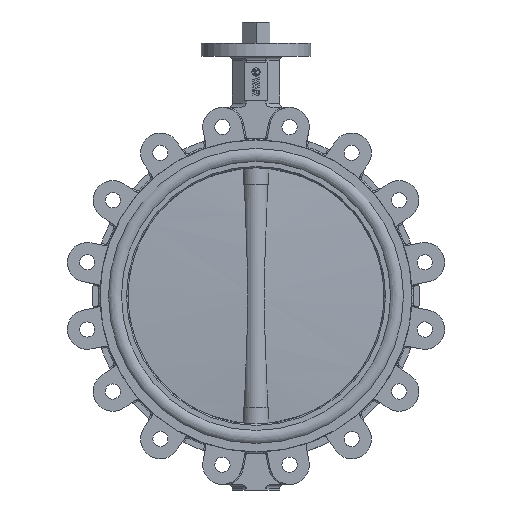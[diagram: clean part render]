
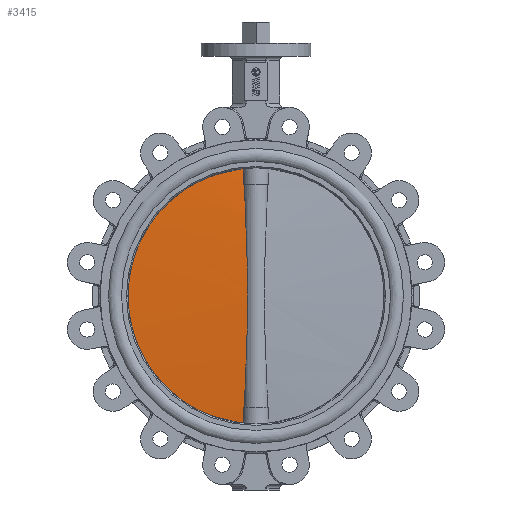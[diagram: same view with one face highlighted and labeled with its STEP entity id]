
A CAD part, left-side view. The second image highlights one B-rep face of the part: STEP entity #3415.
In plain terms, the highlighted spherical face has radius 2045.42 mm.
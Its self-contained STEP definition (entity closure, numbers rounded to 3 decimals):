
#3415=ADVANCED_FACE('',(#9032),#9034,.T.);
#9032=FACE_BOUND('',#9033,.T.);
#9033=EDGE_LOOP('',(#13762,#13763,#13764,#13765,#13766,#13767));
#9034=SPHERICAL_SURFACE('',#9035,2045.417);
#9035=AXIS2_PLACEMENT_3D('',#9036,#9037,#9038);
#9036=CARTESIAN_POINT('',(0.,-2031.917,0.));
#9037=DIRECTION('',(0.,-1.,0.));
#9038=DIRECTION('',(0.,0.,1.));
#13762=ORIENTED_EDGE('',*,*,#15802,.F.);
#13763=ORIENTED_EDGE('',*,*,#15814,.F.);
#13764=ORIENTED_EDGE('',*,*,#15815,.T.);
#13765=ORIENTED_EDGE('',*,*,#15816,.F.);
#13766=ORIENTED_EDGE('',*,*,#15785,.F.);
#13767=ORIENTED_EDGE('',*,*,#15813,.T.);
#15785=EDGE_CURVE('',#19125,#19126,#19127,.F.);
#15802=EDGE_CURVE('',#19158,#19143,#19160,.T.);
#15813=EDGE_CURVE('',#19125,#19143,#19175,.T.);
#15814=EDGE_CURVE('',#19176,#19158,#19177,.T.);
#15815=EDGE_CURVE('',#19176,#19178,#19179,.T.);
#15816=EDGE_CURVE('',#19126,#19178,#19180,.T.);
#19125=VERTEX_POINT('',#30678);
#19126=VERTEX_POINT('',#30679);
#19127=B_SPLINE_CURVE_WITH_KNOTS('',3,
(#30680,#30681,#30682,#30683,#30684,#30685,#30686,#30687),
.UNSPECIFIED.,.F.,.F.,
(4,1,1,1,1,4),
(0.,0.193,0.387,0.583,0.787,1.),
.UNSPECIFIED.);
#19143=VERTEX_POINT('',#30810);
#19158=VERTEX_POINT('',#30929);
#19160=B_SPLINE_CURVE_WITH_KNOTS('',3,
(#30934,#30935,#30936,#30937,#30938,#30939,#30940,#30941),
.UNSPECIFIED.,.F.,.F.,
(4,1,1,1,1,4),
(0.,0.193,0.387,0.583,0.787,1.),
.UNSPECIFIED.);
#19175=CIRCLE('',#31020,175.);
#19176=VERTEX_POINT('',#31024);
#19177=CIRCLE('',#31025,2039.742);
#19178=VERTEX_POINT('',#31029);
#19179=B_SPLINE_CURVE_WITH_KNOTS('',3,
(#31030,#31031,#31032,#31033,#31034,#31035,#31036,#31037,#31038,#31039,#31040,#31041,
#31042,#31043,#31044,#31045,#31046,#31047,#31048,#31049),
.UNSPECIFIED.,.F.,.F.,
(4,1,1,1,1,1,1,1,1,1,1,1,1,1,1,1,1,4),
(0.,0.046,0.092,0.137,0.182,0.227,
0.286,0.358,0.441,0.5,0.519,
0.602,0.694,0.78,0.853,0.906,
0.955,1.),
.UNSPECIFIED.);
#19180=CIRCLE('',#31050,2039.742);
#30678=CARTESIAN_POINT('',(17.526,6.,174.12));
#30679=CARTESIAN_POINT('',(16.823,7.756,152.25));
#30680=CARTESIAN_POINT('',(16.823,7.756,152.25));
#30681=CARTESIAN_POINT('',(16.872,7.651,153.656));
#30682=CARTESIAN_POINT('',(16.968,7.437,156.477));
#30683=CARTESIAN_POINT('',(17.11,7.105,160.726));
#30684=CARTESIAN_POINT('',(17.25,6.758,165.059));
#30685=CARTESIAN_POINT('',(17.39,6.39,169.528));
#30686=CARTESIAN_POINT('',(17.481,6.133,172.569));
#30687=CARTESIAN_POINT('',(17.526,6.,174.12));
#30810=CARTESIAN_POINT('',(17.526,6.,-174.12));
#30929=CARTESIAN_POINT('',(16.823,7.756,-152.25));
#30934=CARTESIAN_POINT('',(16.823,7.756,-152.25));
#30935=CARTESIAN_POINT('',(16.872,7.651,-153.656));
#30936=CARTESIAN_POINT('',(16.968,7.437,-156.477));
#30937=CARTESIAN_POINT('',(17.11,7.105,-160.726));
#30938=CARTESIAN_POINT('',(17.25,6.758,-165.059));
#30939=CARTESIAN_POINT('',(17.39,6.39,-169.528));
#30940=CARTESIAN_POINT('',(17.481,6.133,-172.569));
#30941=CARTESIAN_POINT('',(17.526,6.,-174.12));
#31020=AXIS2_PLACEMENT_3D('',#31021,#31022,#31023);
#31021=CARTESIAN_POINT('',(0.,6.,0.));
#31022=DIRECTION('',(0.,1.,0.));
#31023=DIRECTION('',(0.1,0.,0.995));
#31024=CARTESIAN_POINT('',(15.937,7.764,-152.25));
#31025=AXIS2_PLACEMENT_3D('',#31026,#31027,#31028);
#31026=CARTESIAN_POINT('',(0.,-2031.917,-152.25));
#31027=DIRECTION('',(0.,0.,-1.));
#31028=DIRECTION('',(0.008,1.,0.));
#31029=CARTESIAN_POINT('',(15.937,7.764,152.25));
#31030=CARTESIAN_POINT('',(15.937,7.764,-152.25));
#31031=CARTESIAN_POINT('',(15.767,8.113,-147.592));
#31032=CARTESIAN_POINT('',(15.415,8.777,-138.297));
#31033=CARTESIAN_POINT('',(14.865,9.676,-124.385));
#31034=CARTESIAN_POINT('',(14.311,10.475,-110.564));
#31035=CARTESIAN_POINT('',(13.77,11.175,-96.834));
#31036=CARTESIAN_POINT('',(13.201,11.842,-81.782));
#31037=CARTESIAN_POINT('',(12.589,12.492,-63.994));
#31038=CARTESIAN_POINT('',(11.981,13.073,-42.306));
#31039=CARTESIAN_POINT('',(11.603,13.403,-20.516));
#31040=CARTESIAN_POINT('',(11.517,13.476,-4.082));
#31041=CARTESIAN_POINT('',(11.545,13.453,12.316));
#31042=CARTESIAN_POINT('',(11.755,13.274,32.01));
#31043=CARTESIAN_POINT('',(12.4,12.685,58.523));
#31044=CARTESIAN_POINT('',(13.271,11.779,84.001));
#31045=CARTESIAN_POINT('',(14.109,10.759,105.503));
#31046=CARTESIAN_POINT('',(14.818,9.752,123.202));
#31047=CARTESIAN_POINT('',(15.408,8.791,138.108));
#31048=CARTESIAN_POINT('',(15.769,8.107,147.663));
#31049=CARTESIAN_POINT('',(15.937,7.764,152.25));
#31050=AXIS2_PLACEMENT_3D('',#31051,#31052,#31053);
#31051=CARTESIAN_POINT('',(0.,-2031.917,152.25));
#31052=DIRECTION('',(0.,0.,1.));
#31053=DIRECTION('',(0.008,1.,0.));
